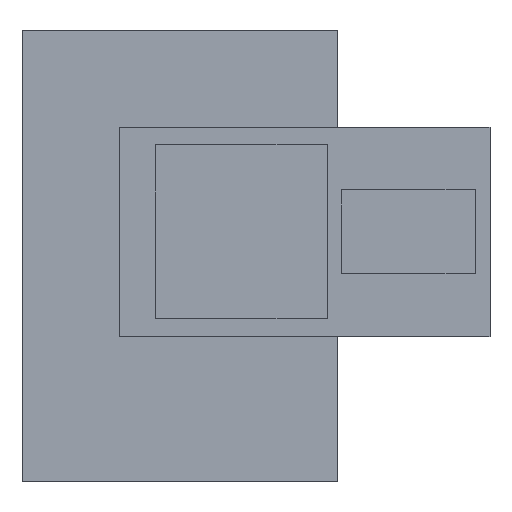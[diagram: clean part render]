
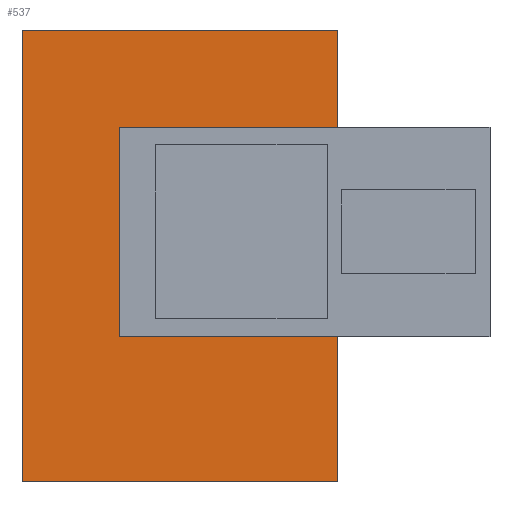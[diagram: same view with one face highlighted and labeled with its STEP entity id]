
A CAD part, top view. The second image highlights one B-rep face of the part: STEP entity #537.
In plain terms, the highlighted planar face has unit normal (0, 0, 1).
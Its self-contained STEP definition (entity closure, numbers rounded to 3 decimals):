
#223 = VERTEX_POINT('',#224);
#224 = CARTESIAN_POINT('',(0.,0.,1.6));
#231 = PLANE('',#232);
#232 = AXIS2_PLACEMENT_3D('',#233,#234,#235);
#233 = CARTESIAN_POINT('',(0.,0.,0.));
#234 = DIRECTION('',(0.,1.,0.));
#235 = DIRECTION('',(1.,0.,0.));
#243 = PLANE('',#244);
#244 = AXIS2_PLACEMENT_3D('',#245,#246,#247);
#245 = CARTESIAN_POINT('',(0.,28.,0.));
#246 = DIRECTION('',(1.,0.,0.));
#247 = DIRECTION('',(0.,-1.,0.));
#255 = EDGE_CURVE('',#223,#256,#258,.T.);
#256 = VERTEX_POINT('',#257);
#257 = CARTESIAN_POINT('',(19.6,0.,1.6));
#258 = SURFACE_CURVE('',#259,(#263,#270),.PCURVE_S1.);
#259 = LINE('',#260,#261);
#260 = CARTESIAN_POINT('',(0.,0.,1.6));
#261 = VECTOR('',#262,1.);
#262 = DIRECTION('',(1.,0.,0.));
#263 = PCURVE('',#231,#264);
#264 = DEFINITIONAL_REPRESENTATION('',(#265),#269);
#265 = LINE('',#266,#267);
#266 = CARTESIAN_POINT('',(0.,-1.6));
#267 = VECTOR('',#268,1.);
#268 = DIRECTION('',(1.,0.));
#269 = ( GEOMETRIC_REPRESENTATION_CONTEXT(2) 
PARAMETRIC_REPRESENTATION_CONTEXT() REPRESENTATION_CONTEXT('2D SPACE',''
  ) );
#270 = PCURVE('',#271,#276);
#271 = PLANE('',#272);
#272 = AXIS2_PLACEMENT_3D('',#273,#274,#275);
#273 = CARTESIAN_POINT('',(0.,0.,1.6));
#274 = DIRECTION('',(0.,0.,-1.));
#275 = DIRECTION('',(-1.,0.,0.));
#276 = DEFINITIONAL_REPRESENTATION('',(#277),#281);
#277 = LINE('',#278,#279);
#278 = CARTESIAN_POINT('',(0.,0.));
#279 = VECTOR('',#280,1.);
#280 = DIRECTION('',(-1.,0.));
#281 = ( GEOMETRIC_REPRESENTATION_CONTEXT(2) 
PARAMETRIC_REPRESENTATION_CONTEXT() REPRESENTATION_CONTEXT('2D SPACE',''
  ) );
#299 = PLANE('',#300);
#300 = AXIS2_PLACEMENT_3D('',#301,#302,#303);
#301 = CARTESIAN_POINT('',(19.6,0.,0.));
#302 = DIRECTION('',(-1.,0.,0.));
#303 = DIRECTION('',(0.,1.,0.));
#341 = EDGE_CURVE('',#256,#342,#344,.T.);
#342 = VERTEX_POINT('',#343);
#343 = CARTESIAN_POINT('',(19.6,28.,1.6));
#344 = SURFACE_CURVE('',#345,(#349,#356),.PCURVE_S1.);
#345 = LINE('',#346,#347);
#346 = CARTESIAN_POINT('',(19.6,0.,1.6));
#347 = VECTOR('',#348,1.);
#348 = DIRECTION('',(0.,1.,0.));
#349 = PCURVE('',#299,#350);
#350 = DEFINITIONAL_REPRESENTATION('',(#351),#355);
#351 = LINE('',#352,#353);
#352 = CARTESIAN_POINT('',(0.,-1.6));
#353 = VECTOR('',#354,1.);
#354 = DIRECTION('',(1.,0.));
#355 = ( GEOMETRIC_REPRESENTATION_CONTEXT(2) 
PARAMETRIC_REPRESENTATION_CONTEXT() REPRESENTATION_CONTEXT('2D SPACE',''
  ) );
#356 = PCURVE('',#271,#357);
#357 = DEFINITIONAL_REPRESENTATION('',(#358),#362);
#358 = LINE('',#359,#360);
#359 = CARTESIAN_POINT('',(-19.6,0.));
#360 = VECTOR('',#361,1.);
#361 = DIRECTION('',(0.,1.));
#362 = ( GEOMETRIC_REPRESENTATION_CONTEXT(2) 
PARAMETRIC_REPRESENTATION_CONTEXT() REPRESENTATION_CONTEXT('2D SPACE',''
  ) );
#380 = PLANE('',#381);
#381 = AXIS2_PLACEMENT_3D('',#382,#383,#384);
#382 = CARTESIAN_POINT('',(19.6,28.,0.));
#383 = DIRECTION('',(0.,-1.,0.));
#384 = DIRECTION('',(-1.,0.,0.));
#417 = EDGE_CURVE('',#342,#418,#420,.T.);
#418 = VERTEX_POINT('',#419);
#419 = CARTESIAN_POINT('',(0.,28.,1.6));
#420 = SURFACE_CURVE('',#421,(#425,#432),.PCURVE_S1.);
#421 = LINE('',#422,#423);
#422 = CARTESIAN_POINT('',(19.6,28.,1.6));
#423 = VECTOR('',#424,1.);
#424 = DIRECTION('',(-1.,0.,0.));
#425 = PCURVE('',#380,#426);
#426 = DEFINITIONAL_REPRESENTATION('',(#427),#431);
#427 = LINE('',#428,#429);
#428 = CARTESIAN_POINT('',(0.,-1.6));
#429 = VECTOR('',#430,1.);
#430 = DIRECTION('',(1.,0.));
#431 = ( GEOMETRIC_REPRESENTATION_CONTEXT(2) 
PARAMETRIC_REPRESENTATION_CONTEXT() REPRESENTATION_CONTEXT('2D SPACE',''
  ) );
#432 = PCURVE('',#271,#433);
#433 = DEFINITIONAL_REPRESENTATION('',(#434),#438);
#434 = LINE('',#435,#436);
#435 = CARTESIAN_POINT('',(-19.6,28.));
#436 = VECTOR('',#437,1.);
#437 = DIRECTION('',(1.,0.));
#438 = ( GEOMETRIC_REPRESENTATION_CONTEXT(2) 
PARAMETRIC_REPRESENTATION_CONTEXT() REPRESENTATION_CONTEXT('2D SPACE',''
  ) );
#488 = EDGE_CURVE('',#418,#223,#489,.T.);
#489 = SURFACE_CURVE('',#490,(#494,#501),.PCURVE_S1.);
#490 = LINE('',#491,#492);
#491 = CARTESIAN_POINT('',(0.,28.,1.6));
#492 = VECTOR('',#493,1.);
#493 = DIRECTION('',(0.,-1.,0.));
#494 = PCURVE('',#243,#495);
#495 = DEFINITIONAL_REPRESENTATION('',(#496),#500);
#496 = LINE('',#497,#498);
#497 = CARTESIAN_POINT('',(0.,-1.6));
#498 = VECTOR('',#499,1.);
#499 = DIRECTION('',(1.,0.));
#500 = ( GEOMETRIC_REPRESENTATION_CONTEXT(2) 
PARAMETRIC_REPRESENTATION_CONTEXT() REPRESENTATION_CONTEXT('2D SPACE',''
  ) );
#501 = PCURVE('',#271,#502);
#502 = DEFINITIONAL_REPRESENTATION('',(#503),#507);
#503 = LINE('',#504,#505);
#504 = CARTESIAN_POINT('',(0.,28.));
#505 = VECTOR('',#506,1.);
#506 = DIRECTION('',(0.,-1.));
#507 = ( GEOMETRIC_REPRESENTATION_CONTEXT(2) 
PARAMETRIC_REPRESENTATION_CONTEXT() REPRESENTATION_CONTEXT('2D SPACE',''
  ) );
#537 = ADVANCED_FACE('',(#538),#271,.F.);
#538 = FACE_BOUND('',#539,.T.);
#539 = EDGE_LOOP('',(#540,#541,#542,#543));
#540 = ORIENTED_EDGE('',*,*,#255,.T.);
#541 = ORIENTED_EDGE('',*,*,#341,.T.);
#542 = ORIENTED_EDGE('',*,*,#417,.T.);
#543 = ORIENTED_EDGE('',*,*,#488,.T.);
